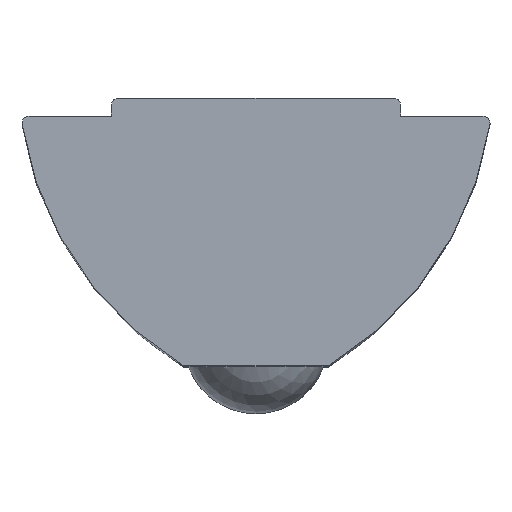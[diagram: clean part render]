
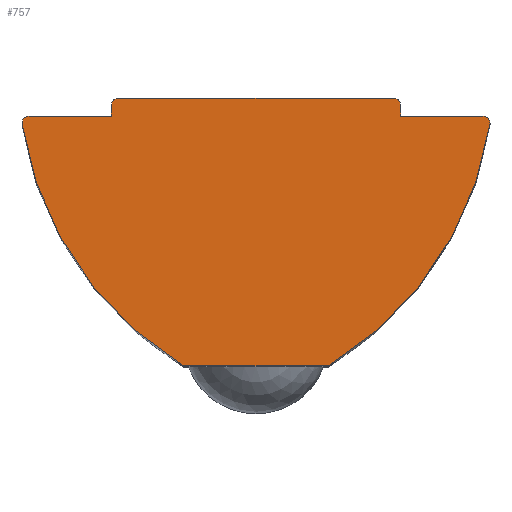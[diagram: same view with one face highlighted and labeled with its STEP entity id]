
A CAD part, top view. The second image highlights one B-rep face of the part: STEP entity #757.
In plain terms, the highlighted planar face has unit normal (0, 0, 1).
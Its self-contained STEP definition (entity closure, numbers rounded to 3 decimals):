
#1 = AXIS2_PLACEMENT_3D ( 'NONE', #208, #162, #156 ) ;
#21 = FACE_OUTER_BOUND ( 'NONE', #764, .T. ) ;
#23 = CARTESIAN_POINT ( 'NONE',  ( -6.469, 6.7, 11. ) ) ;
#31 = DIRECTION ( 'NONE',  ( 1., 0., 0. ) ) ;
#50 = CARTESIAN_POINT ( 'NONE',  ( -4., 6.9, 11. ) ) ;
#56 = CIRCLE ( 'NONE', #721, 0.2 ) ;
#57 = CARTESIAN_POINT ( 'NONE',  ( 0., 0., 11. ) ) ;
#65 = CIRCLE ( 'NONE', #782, 0.2 ) ;
#75 = CIRCLE ( 'NONE', #759, 0.2 ) ;
#76 = VECTOR ( 'NONE', #811, 1000. ) ;
#80 = LINE ( 'NONE', #798, #76 ) ;
#88 = CIRCLE ( 'NONE', #756, 0.2 ) ;
#104 = EDGE_CURVE ( 'NONE', #560, #325, #641, .T. ) ;
#111 = LINE ( 'NONE', #395, #114 ) ;
#114 = VECTOR ( 'NONE', #637, 1000. ) ;
#120 = CIRCLE ( 'NONE', #813, 9.5 ) ;
#132 = VECTOR ( 'NONE', #31, 1000. ) ;
#149 = LINE ( 'NONE', #57, #132 ) ;
#156 = DIRECTION ( 'NONE',  ( 1., 0., 0. ) ) ;
#161 = CIRCLE ( 'NONE', #1, 9.5 ) ;
#162 = DIRECTION ( 'NONE',  ( 0., 0., 1. ) ) ;
#163 = VECTOR ( 'NONE', #245, 1000. ) ;
#165 = LINE ( 'NONE', #288, #163 ) ;
#170 = AXIS2_PLACEMENT_3D ( 'NONE', #551, #448, #462 ) ;
#192 = VECTOR ( 'NONE', #567, 1000. ) ;
#193 = CARTESIAN_POINT ( 'NONE',  ( -3.8, 7.4, 11. ) ) ;
#203 = LINE ( 'NONE', #557, #192 ) ;
#205 = VECTOR ( 'NONE', #572, 1000. ) ;
#208 = CARTESIAN_POINT ( 'NONE',  ( 2.921, 8.126, 11. ) ) ;
#213 = LINE ( 'NONE', #580, #205 ) ;
#224 = CARTESIAN_POINT ( 'NONE',  ( 6.467, 6.669, 11. ) ) ;
#245 = DIRECTION ( 'NONE',  ( 1., 0., 0. ) ) ;
#274 = CARTESIAN_POINT ( 'NONE',  ( -2., 0., 11. ) ) ;
#285 = CARTESIAN_POINT ( 'NONE',  ( 4., 7.2, 11. ) ) ;
#288 = CARTESIAN_POINT ( 'NONE',  ( 0., 6.9, 11. ) ) ;
#302 = DIRECTION ( 'NONE',  ( 1., 0., 0. ) ) ;
#325 = VERTEX_POINT ( 'NONE', #775 ) ;
#384 = CARTESIAN_POINT ( 'NONE',  ( -6.269, 6.9, 11. ) ) ;
#395 = CARTESIAN_POINT ( 'NONE',  ( 0., 6.9, 11. ) ) ;
#398 = VERTEX_POINT ( 'NONE', #605 ) ;
#405 = EDGE_CURVE ( 'NONE', #595, #853, #213, .T. ) ;
#409 = DIRECTION ( 'NONE',  ( 0., 0., -1. ) ) ;
#421 = EDGE_CURVE ( 'NONE', #543, #398, #203, .T. ) ;
#424 = CARTESIAN_POINT ( 'NONE',  ( -2.921, 8.126, 11. ) ) ;
#441 = VERTEX_POINT ( 'NONE', #384 ) ;
#448 = DIRECTION ( 'NONE',  ( 0., 0., 1. ) ) ;
#462 = DIRECTION ( 'NONE',  ( 1., 0., 0. ) ) ;
#480 = EDGE_CURVE ( 'NONE', #441, #543, #165, .T. ) ;
#482 = CARTESIAN_POINT ( 'NONE',  ( 2., 0., 11. ) ) ;
#485 = EDGE_CURVE ( 'NONE', #325, #833, #161, .T. ) ;
#494 = VERTEX_POINT ( 'NONE', #224 ) ;
#496 = CARTESIAN_POINT ( 'NONE',  ( 6.269, 6.9, 11. ) ) ;
#506 = VERTEX_POINT ( 'NONE', #285 ) ;
#533 = DIRECTION ( 'NONE',  ( 1., 0., 0. ) ) ;
#539 = EDGE_CURVE ( 'NONE', #833, #771, #149, .T. ) ;
#541 = AXIS2_PLACEMENT_3D ( 'NONE', #570, #542, #533 ) ;
#542 = DIRECTION ( 'NONE',  ( 0., 0., 1. ) ) ;
#543 = VERTEX_POINT ( 'NONE', #50 ) ;
#551 = CARTESIAN_POINT ( 'NONE',  ( -6.269, 6.7, 11. ) ) ;
#552 = ORIENTED_EDGE ( 'NONE', *, *, #667, .T. ) ;
#553 = CARTESIAN_POINT ( 'NONE',  ( 3.8, 7.4, 11. ) ) ;
#557 = CARTESIAN_POINT ( 'NONE',  ( -4., 0., 11. ) ) ;
#560 = VERTEX_POINT ( 'NONE', #23 ) ;
#561 = ORIENTED_EDGE ( 'NONE', *, *, #480, .F. ) ;
#563 = PLANE ( 'NONE',  #541 ) ;
#567 = DIRECTION ( 'NONE',  ( 0., 1., 0. ) ) ;
#569 = CARTESIAN_POINT ( 'NONE',  ( 4., 6.9, 11. ) ) ;
#570 = CARTESIAN_POINT ( 'NONE',  ( 0., 0., 11. ) ) ;
#572 = DIRECTION ( 'NONE',  ( -1., 0., 0. ) ) ;
#580 = CARTESIAN_POINT ( 'NONE',  ( 0., 7.4, 11. ) ) ;
#587 = EDGE_CURVE ( 'NONE', #494, #771, #120, .T. ) ;
#594 = EDGE_CURVE ( 'NONE', #781, #753, #111, .T. ) ;
#595 = VERTEX_POINT ( 'NONE', #553 ) ;
#598 = ORIENTED_EDGE ( 'NONE', *, *, #707, .T. ) ;
#600 = ORIENTED_EDGE ( 'NONE', *, *, #594, .T. ) ;
#605 = CARTESIAN_POINT ( 'NONE',  ( -4., 7.2, 11. ) ) ;
#610 = ORIENTED_EDGE ( 'NONE', *, *, #661, .T. ) ;
#611 = ORIENTED_EDGE ( 'NONE', *, *, #405, .T. ) ;
#629 = ORIENTED_EDGE ( 'NONE', *, *, #485, .T. ) ;
#637 = DIRECTION ( 'NONE',  ( -1., 0., 0. ) ) ;
#641 = CIRCLE ( 'NONE', #170, 0.2 ) ;
#660 = ORIENTED_EDGE ( 'NONE', *, *, #421, .F. ) ;
#661 = EDGE_CURVE ( 'NONE', #753, #506, #80, .T. ) ;
#667 = EDGE_CURVE ( 'NONE', #441, #560, #65, .T. ) ;
#674 = DIRECTION ( 'NONE',  ( 1., 0., 0. ) ) ;
#675 = DIRECTION ( 'NONE',  ( 0., 0., 1. ) ) ;
#678 = CARTESIAN_POINT ( 'NONE',  ( -3.8, 7.2, 11. ) ) ;
#679 = EDGE_CURVE ( 'NONE', #494, #781, #75, .T. ) ;
#694 = ORIENTED_EDGE ( 'NONE', *, *, #696, .T. ) ;
#696 = EDGE_CURVE ( 'NONE', #506, #595, #88, .T. ) ;
#703 = ORIENTED_EDGE ( 'NONE', *, *, #539, .T. ) ;
#707 = EDGE_CURVE ( 'NONE', #853, #398, #56, .T. ) ;
#708 = ORIENTED_EDGE ( 'NONE', *, *, #679, .T. ) ;
#721 = AXIS2_PLACEMENT_3D ( 'NONE', #678, #675, #674 ) ;
#725 = DIRECTION ( 'NONE',  ( 1., 0., 0. ) ) ;
#726 = DIRECTION ( 'NONE',  ( 0., 0., 1. ) ) ;
#736 = CARTESIAN_POINT ( 'NONE',  ( 3.8, 7.2, 11. ) ) ;
#752 = ORIENTED_EDGE ( 'NONE', *, *, #104, .T. ) ;
#753 = VERTEX_POINT ( 'NONE', #569 ) ;
#756 = AXIS2_PLACEMENT_3D ( 'NONE', #736, #726, #725 ) ;
#757 = ADVANCED_FACE ( 'NONE', ( #21 ), #563, .T. ) ;
#758 = DIRECTION ( 'NONE',  ( 1., 0., 0. ) ) ;
#759 = AXIS2_PLACEMENT_3D ( 'NONE', #765, #763, #758 ) ;
#763 = DIRECTION ( 'NONE',  ( 0., 0., 1. ) ) ;
#764 = EDGE_LOOP ( 'NONE', ( #561, #552, #752, #629, #703, #802, #708, #600, #610, #694, #611, #598, #660 ) ) ;
#765 = CARTESIAN_POINT ( 'NONE',  ( 6.269, 6.7, 11. ) ) ;
#771 = VERTEX_POINT ( 'NONE', #482 ) ;
#775 = CARTESIAN_POINT ( 'NONE',  ( -6.467, 6.669, 11. ) ) ;
#776 = DIRECTION ( 'NONE',  ( 1., 0., 0. ) ) ;
#778 = DIRECTION ( 'NONE',  ( 0., 0., 1. ) ) ;
#779 = CARTESIAN_POINT ( 'NONE',  ( -6.269, 6.7, 11. ) ) ;
#781 = VERTEX_POINT ( 'NONE', #496 ) ;
#782 = AXIS2_PLACEMENT_3D ( 'NONE', #779, #778, #776 ) ;
#798 = CARTESIAN_POINT ( 'NONE',  ( 4., 0., 11. ) ) ;
#802 = ORIENTED_EDGE ( 'NONE', *, *, #587, .F. ) ;
#811 = DIRECTION ( 'NONE',  ( 0., 1., 0. ) ) ;
#813 = AXIS2_PLACEMENT_3D ( 'NONE', #424, #409, #302 ) ;
#833 = VERTEX_POINT ( 'NONE', #274 ) ;
#853 = VERTEX_POINT ( 'NONE', #193 ) ;
